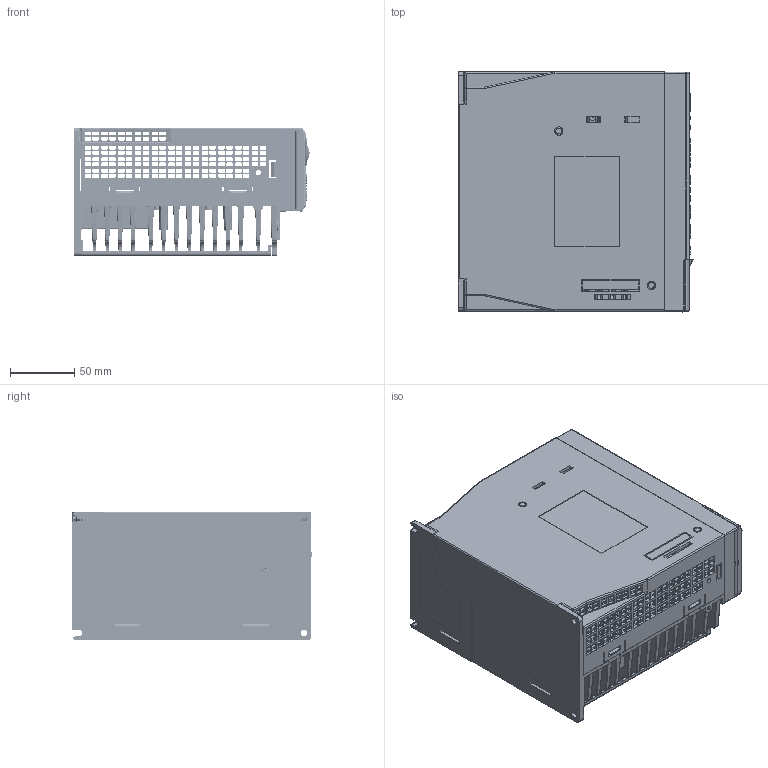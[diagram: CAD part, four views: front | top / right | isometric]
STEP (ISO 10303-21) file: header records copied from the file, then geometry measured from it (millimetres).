
FILE_DESCRIPTION (( 'STEP AP203' ), '1' );
FILE_NAME ('UMD-00[10-20]E-B3_UMD-00[15-20]C-B3.STEP', '2019-04-17T12:30:25', ( '' ), ( '' ), 'SwSTEP 2.0', 'SolidWorks 2017', '' );
FILE_SCHEMA (( 'CONFIG_CONTROL_DESIGN' ));
Products named in the file (1): UMD-00[10-20]E-B3_UMD-00[15-20]C-B3
Bounding box: 182.88 x 186.72 x 100 mm (x, y, z)
Surface area: 346713.8 mm2 (no closed solid volume)
Topology: 0 solids, 35 shells, 6324 faces, 18266 edges, 11999 vertices
Faces by surface type: plane 3650, cylinder 1929, bspline 553, cone 111, torus 77, sphere 4
Entity records: 247561 total; most frequent: CARTESIAN_POINT 88981, ORIENTED_EDGE 36137, DIRECTION 28183, EDGE_CURVE 18253, LINE 12709, VECTOR 12709, VERTEX_POINT 11999, AXIS2_PLACEMENT_3D 7737
